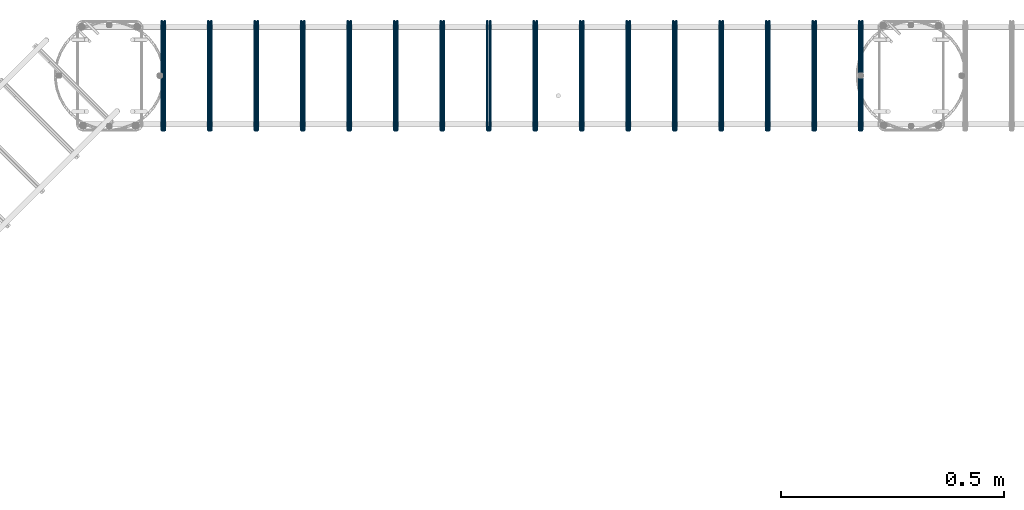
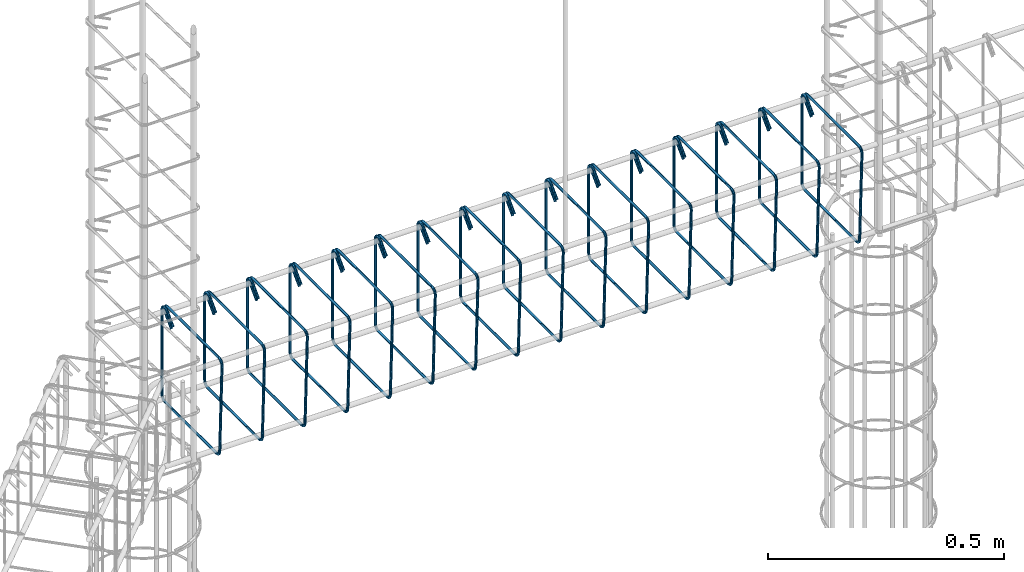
# One storey, part 5 of 14: 1 reinforcing bar.
"""IFC4 building model written with IfcOpenShell, lengths in centimetres."""

from ifc_helpers import new_model, entity, si_unit, converted_unit, derived_unit, direction, frame, origin, place, context, subcontext, project, spatial, type_object, element, save


model = new_model("IFC4")

# Units and contexts
model_context = context("Model", 3, precision=0.001, world=origin(), true_north=direction((6.123233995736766e-17, 1.0)))
body_context = subcontext(model_context, "Body", "Model", "MODEL_VIEW")
ifc_project = project(units=[si_unit("LENGTHUNIT", "METRE", prefix="CENTI"), si_unit("AREAUNIT", "SQUARE_METRE"), converted_unit("PLANEANGLEUNIT", "DEGREE", entity("IfcPlaneAngleMeasure", 0.017453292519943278), si_unit("PLANEANGLEUNIT", "RADIAN"), dimensions=[0, 0, 0, 0, 0, 0, 0]), si_unit("VOLUMEUNIT", "CUBIC_METRE"), derived_unit("THERMALTRANSMITTANCEUNIT", [(si_unit("MASSUNIT", "GRAM", prefix="KILO"), 1), (si_unit("THERMODYNAMICTEMPERATUREUNIT", "KELVIN"), -1), (si_unit("TIMEUNIT", "SECOND"), -3)])], contexts=[model_context])

# Site, building, storey
site_placement = place(None, origin())
site = spatial("IfcSite", under=ifc_project, at=site_placement, Name="Default", CompositionType="ELEMENT")
building_placement = place(site_placement, origin())
building = spatial("IfcBuilding", under=site, at=building_placement, Name="CONTENÇÃO DE ARQUIBANCADA - GINÁSIO PADRÃO", CompositionType="ELEMENT")
storey_placement = place(building_placement, frame((0.0, 0.0, -100.0)))
storey = spatial("IfcBuildingStorey", under=building, at=storey_placement, Name="Nível 3", CompositionType="ELEMENT", Elevation=-100.0)

# Reinforcing bar
reinforcing_bar_type = type_object("IfcReinforcingBarType", Name="Barra do vergalhão:6.3 CA-50", PredefinedType="NOTDEFINED")
reinforcing_bar_placement = place(storey_placement, origin())
element("IfcReinforcingBar", 1, at=reinforcing_bar_placement, inside=storey, type_object=reinforcing_bar_type, Name="Barra do vergalhão:6.3 CA-50 : Forma 22", ObjectType="Barra do vergalhão:6.3 CA-50", context=body_context, shape_type="AdvancedSweptSolid", body=[
    entity("IfcSweptDiskSolid", entity("IfcIndexedPolyCurve", entity("IfcCartesianPointList3D", [[182.7613157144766, 256.55825578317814, 94.26598964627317], [182.7613157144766, 259.10822068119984, 96.81595454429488], [182.7613157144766, 260.4813563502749, 97.08908821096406], [182.7613157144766, 261.2591752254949, 95.92499999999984], [182.7613157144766, 261.25917522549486, 74.07499999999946], [182.7613157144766, 260.8901297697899, 73.18404545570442], [182.7613157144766, 259.9991752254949, 72.81499999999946], [182.76131571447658, 238.1491752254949, 72.81499999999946], [182.77085289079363, 237.25822068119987, 73.18392220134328], [182.79387767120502, 236.88917522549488, 74.07457918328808], [183.35875375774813, 236.88917522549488, 95.92542081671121], [183.38177853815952, 237.25822068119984, 96.81607779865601], [183.39131571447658, 238.1491752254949, 97.18499999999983], [183.3913157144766, 259.99917522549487, 97.18499999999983], [183.3913157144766, 261.1632634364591, 96.40718112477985], [183.3913157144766, 260.89012976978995, 95.03404545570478], [183.3913157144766, 258.34016487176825, 92.48408055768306]]), [entity("IfcLineIndex", [1, 2]), entity("IfcArcIndex", [2, 3, 4]), entity("IfcLineIndex", [4, 5]), entity("IfcArcIndex", [5, 6, 7]), entity("IfcLineIndex", [7, 8]), entity("IfcArcIndex", [8, 9, 10]), entity("IfcLineIndex", [10, 11]), entity("IfcArcIndex", [11, 12, 13]), entity("IfcLineIndex", [13, 14]), entity("IfcArcIndex", [14, 15, 16]), entity("IfcLineIndex", [16, 17])], False), 0.31499999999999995, None, 0.0, 546.0000000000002),
    entity("IfcSweptDiskSolid", entity("IfcIndexedPolyCurve", entity("IfcCartesianPointList3D", [[172.32552515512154, 256.55825578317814, 94.26598964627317], [172.32552515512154, 259.10822068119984, 96.81595454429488], [172.32552515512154, 260.4813563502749, 97.08908821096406], [172.32552515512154, 261.2591752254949, 95.92499999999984], [172.32552515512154, 261.25917522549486, 74.07499999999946], [172.32552515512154, 260.8901297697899, 73.18404545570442], [172.32552515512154, 259.9991752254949, 72.81499999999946], [172.32552515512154, 238.14917522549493, 72.81499999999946], [172.33506233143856, 237.2582206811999, 73.18392220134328], [172.35808711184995, 236.8891752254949, 74.07457918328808], [172.9229631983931, 236.8891752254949, 95.92542081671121], [172.94598797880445, 237.25822068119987, 96.81607779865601], [172.9555251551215, 238.14917522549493, 97.18499999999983], [172.95552515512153, 259.99917522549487, 97.18499999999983], [172.95552515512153, 261.1632634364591, 96.40718112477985], [172.95552515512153, 260.89012976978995, 95.03404545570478], [172.95552515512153, 258.34016487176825, 92.48408055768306]]), [entity("IfcLineIndex", [1, 2]), entity("IfcArcIndex", [2, 3, 4]), entity("IfcLineIndex", [4, 5]), entity("IfcArcIndex", [5, 6, 7]), entity("IfcLineIndex", [7, 8]), entity("IfcArcIndex", [8, 9, 10]), entity("IfcLineIndex", [10, 11]), entity("IfcArcIndex", [11, 12, 13]), entity("IfcLineIndex", [13, 14]), entity("IfcArcIndex", [14, 15, 16]), entity("IfcLineIndex", [16, 17])], False), 0.31499999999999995, None, 0.0, 546.0000000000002),
    entity("IfcSweptDiskSolid", entity("IfcIndexedPolyCurve", entity("IfcCartesianPointList3D", [[161.8897345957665, 256.5582557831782, 94.26598964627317], [161.8897345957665, 259.1082206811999, 96.81595454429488], [161.8897345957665, 260.48135635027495, 97.08908821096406], [161.8897345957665, 261.25917522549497, 95.92499999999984], [161.8897345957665, 261.2591752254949, 74.07499999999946], [161.8897345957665, 260.89012976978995, 73.18404545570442], [161.8897345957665, 259.999175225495, 72.81499999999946], [161.88973459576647, 238.14917522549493, 72.81499999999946], [161.89927177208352, 237.2582206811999, 73.18392220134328], [161.9222965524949, 236.8891752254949, 74.07457918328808], [162.48717263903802, 236.8891752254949, 95.92542081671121], [162.5101974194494, 237.25822068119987, 96.81607779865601], [162.51973459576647, 238.14917522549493, 97.18499999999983], [162.5197345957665, 259.9991752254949, 97.18499999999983], [162.5197345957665, 261.16326343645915, 96.40718112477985], [162.5197345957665, 260.89012976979, 95.03404545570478], [162.5197345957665, 258.3401648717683, 92.48408055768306]]), [entity("IfcLineIndex", [1, 2]), entity("IfcArcIndex", [2, 3, 4]), entity("IfcLineIndex", [4, 5]), entity("IfcArcIndex", [5, 6, 7]), entity("IfcLineIndex", [7, 8]), entity("IfcArcIndex", [8, 9, 10]), entity("IfcLineIndex", [10, 11]), entity("IfcArcIndex", [11, 12, 13]), entity("IfcLineIndex", [13, 14]), entity("IfcArcIndex", [14, 15, 16]), entity("IfcLineIndex", [16, 17])], False), 0.31499999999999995, None, 0.0, 546.0000000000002),
    entity("IfcSweptDiskSolid", entity("IfcIndexedPolyCurve", entity("IfcCartesianPointList3D", [[151.45394403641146, 256.5582557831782, 94.26598964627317], [151.45394403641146, 259.1082206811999, 96.81595454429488], [151.45394403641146, 260.48135635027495, 97.08908821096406], [151.45394403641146, 261.25917522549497, 95.92499999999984], [151.45394403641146, 261.2591752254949, 74.07499999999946], [151.45394403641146, 260.89012976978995, 73.18404545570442], [151.45394403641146, 259.999175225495, 72.81499999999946], [151.45394403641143, 238.14917522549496, 72.81499999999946], [151.46348121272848, 237.25822068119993, 73.18392220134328], [151.48650599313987, 236.88917522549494, 74.07457918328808], [152.05138207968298, 236.88917522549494, 95.92542081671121], [152.07440686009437, 237.2582206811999, 96.81607779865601], [152.08394403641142, 238.14917522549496, 97.18499999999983], [152.08394403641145, 259.9991752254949, 97.18499999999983], [152.08394403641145, 261.16326343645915, 96.40718112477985], [152.08394403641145, 260.89012976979, 95.03404545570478], [152.08394403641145, 258.3401648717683, 92.48408055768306]]), [entity("IfcLineIndex", [1, 2]), entity("IfcArcIndex", [2, 3, 4]), entity("IfcLineIndex", [4, 5]), entity("IfcArcIndex", [5, 6, 7]), entity("IfcLineIndex", [7, 8]), entity("IfcArcIndex", [8, 9, 10]), entity("IfcLineIndex", [10, 11]), entity("IfcArcIndex", [11, 12, 13]), entity("IfcLineIndex", [13, 14]), entity("IfcArcIndex", [14, 15, 16]), entity("IfcLineIndex", [16, 17])], False), 0.31499999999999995, None, 0.0, 546.0000000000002),
    entity("IfcSweptDiskSolid", entity("IfcIndexedPolyCurve", entity("IfcCartesianPointList3D", [[141.0181534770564, 256.5582557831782, 94.26598964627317], [141.0181534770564, 259.1082206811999, 96.81595454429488], [141.0181534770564, 260.48135635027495, 97.08908821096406], [141.0181534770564, 261.25917522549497, 95.92499999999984], [141.0181534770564, 261.2591752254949, 74.07499999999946], [141.0181534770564, 260.89012976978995, 73.18404545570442], [141.0181534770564, 259.999175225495, 72.81499999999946], [141.0181534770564, 238.149175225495, 72.81499999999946], [141.0276906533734, 237.25822068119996, 73.18392220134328], [141.0507154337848, 236.88917522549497, 74.07457918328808], [141.61559152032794, 236.88917522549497, 95.92542081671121], [141.63861630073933, 237.25822068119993, 96.81607779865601], [141.64815347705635, 238.149175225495, 97.18499999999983], [141.64815347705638, 259.9991752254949, 97.18499999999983], [141.64815347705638, 261.16326343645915, 96.40718112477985], [141.64815347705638, 260.89012976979, 95.03404545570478], [141.64815347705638, 258.3401648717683, 92.48408055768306]]), [entity("IfcLineIndex", [1, 2]), entity("IfcArcIndex", [2, 3, 4]), entity("IfcLineIndex", [4, 5]), entity("IfcArcIndex", [5, 6, 7]), entity("IfcLineIndex", [7, 8]), entity("IfcArcIndex", [8, 9, 10]), entity("IfcLineIndex", [10, 11]), entity("IfcArcIndex", [11, 12, 13]), entity("IfcLineIndex", [13, 14]), entity("IfcArcIndex", [14, 15, 16]), entity("IfcLineIndex", [16, 17])], False), 0.31499999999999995, None, 0.0, 546.0000000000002),
    entity("IfcSweptDiskSolid", entity("IfcIndexedPolyCurve", entity("IfcCartesianPointList3D", [[130.58236291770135, 256.5582557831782, 94.26598964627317], [130.58236291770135, 259.10822068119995, 96.81595454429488], [130.58236291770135, 260.481356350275, 97.08908821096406], [130.58236291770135, 261.259175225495, 95.92499999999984], [130.58236291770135, 261.25917522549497, 74.07499999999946], [130.58236291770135, 260.89012976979, 73.18404545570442], [130.58236291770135, 259.99917522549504, 72.81499999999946], [130.58236291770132, 238.149175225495, 72.81499999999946], [130.59190009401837, 237.25822068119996, 73.18392220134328], [130.6149248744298, 236.88917522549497, 74.07457918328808], [131.1798009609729, 236.88917522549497, 95.92542081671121], [131.2028257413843, 237.25822068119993, 96.81607779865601], [131.2123629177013, 238.149175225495, 97.18499999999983], [131.21236291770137, 259.999175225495, 97.18499999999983], [131.21236291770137, 261.1632634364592, 96.40718112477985], [131.21236291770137, 260.89012976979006, 95.03404545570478], [131.21236291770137, 258.34016487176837, 92.48408055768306]]), [entity("IfcLineIndex", [1, 2]), entity("IfcArcIndex", [2, 3, 4]), entity("IfcLineIndex", [4, 5]), entity("IfcArcIndex", [5, 6, 7]), entity("IfcLineIndex", [7, 8]), entity("IfcArcIndex", [8, 9, 10]), entity("IfcLineIndex", [10, 11]), entity("IfcArcIndex", [11, 12, 13]), entity("IfcLineIndex", [13, 14]), entity("IfcArcIndex", [14, 15, 16]), entity("IfcLineIndex", [16, 17])], False), 0.31499999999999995, None, 0.0, 546.0000000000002),
    entity("IfcSweptDiskSolid", entity("IfcIndexedPolyCurve", entity("IfcCartesianPointList3D", [[120.14657235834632, 256.5582557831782, 94.26598964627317], [120.14657235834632, 259.10822068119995, 96.81595454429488], [120.14657235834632, 260.481356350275, 97.08908821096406], [120.14657235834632, 261.259175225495, 95.92499999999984], [120.14657235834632, 261.25917522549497, 74.07499999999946], [120.14657235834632, 260.89012976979, 73.18404545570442], [120.14657235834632, 259.99917522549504, 72.81499999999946], [120.14657235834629, 238.14917522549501, 72.81499999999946], [120.15610953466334, 237.2582206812, 73.18392220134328], [120.17913431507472, 236.889175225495, 74.07457918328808], [120.74401040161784, 236.889175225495, 95.92542081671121], [120.76703518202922, 237.25822068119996, 96.81607779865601], [120.77657235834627, 238.14917522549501, 97.18499999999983], [120.7765723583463, 259.999175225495, 97.18499999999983], [120.7765723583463, 261.1632634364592, 96.40718112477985], [120.7765723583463, 260.89012976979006, 95.03404545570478], [120.7765723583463, 258.34016487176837, 92.48408055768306]]), [entity("IfcLineIndex", [1, 2]), entity("IfcArcIndex", [2, 3, 4]), entity("IfcLineIndex", [4, 5]), entity("IfcArcIndex", [5, 6, 7]), entity("IfcLineIndex", [7, 8]), entity("IfcArcIndex", [8, 9, 10]), entity("IfcLineIndex", [10, 11]), entity("IfcArcIndex", [11, 12, 13]), entity("IfcLineIndex", [13, 14]), entity("IfcArcIndex", [14, 15, 16]), entity("IfcLineIndex", [16, 17])], False), 0.31499999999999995, None, 0.0, 546.0000000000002),
    entity("IfcSweptDiskSolid", entity("IfcIndexedPolyCurve", entity("IfcCartesianPointList3D", [[109.71078179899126, 256.5582557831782, 94.26598964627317], [109.71078179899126, 259.10822068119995, 96.81595454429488], [109.71078179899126, 260.481356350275, 97.08908821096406], [109.71078179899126, 261.259175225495, 95.92499999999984], [109.71078179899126, 261.25917522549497, 74.07499999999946], [109.71078179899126, 260.89012976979, 73.18404545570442], [109.71078179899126, 259.99917522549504, 72.81499999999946], [109.71078179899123, 238.14917522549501, 72.81499999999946], [109.7203189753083, 237.2582206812, 73.18392220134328], [109.74334375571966, 236.889175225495, 74.07457918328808], [110.30821984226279, 236.889175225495, 95.92542081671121], [110.33124462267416, 237.25822068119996, 96.81607779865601], [110.34078179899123, 238.14917522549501, 97.18499999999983], [110.34078179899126, 259.999175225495, 97.18499999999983], [110.34078179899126, 261.1632634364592, 96.40718112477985], [110.34078179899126, 260.89012976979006, 95.03404545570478], [110.34078179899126, 258.34016487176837, 92.48408055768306]]), [entity("IfcLineIndex", [1, 2]), entity("IfcArcIndex", [2, 3, 4]), entity("IfcLineIndex", [4, 5]), entity("IfcArcIndex", [5, 6, 7]), entity("IfcLineIndex", [7, 8]), entity("IfcArcIndex", [8, 9, 10]), entity("IfcLineIndex", [10, 11]), entity("IfcArcIndex", [11, 12, 13]), entity("IfcLineIndex", [13, 14]), entity("IfcArcIndex", [14, 15, 16]), entity("IfcLineIndex", [16, 17])], False), 0.31499999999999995, None, 0.0, 546.0000000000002),
    entity("IfcSweptDiskSolid", entity("IfcIndexedPolyCurve", entity("IfcCartesianPointList3D", [[99.27499123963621, 256.55825578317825, 94.26598964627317], [99.27499123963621, 259.1082206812, 96.81595454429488], [99.27499123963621, 260.48135635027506, 97.08908821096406], [99.27499123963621, 261.2591752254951, 95.92499999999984], [99.27499123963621, 261.259175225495, 74.07499999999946], [99.27499123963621, 260.89012976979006, 73.18404545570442], [99.27499123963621, 259.9991752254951, 72.81499999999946], [99.27499123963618, 238.14917522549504, 72.81499999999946], [99.28452841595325, 237.25822068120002, 73.18392220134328], [99.30755319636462, 236.88917522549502, 74.07457918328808], [99.87242928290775, 236.88917522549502, 95.92542081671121], [99.89545406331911, 237.2582206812, 96.81607779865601], [99.90499123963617, 238.14917522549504, 97.18499999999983], [99.9049912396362, 259.99917522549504, 97.18499999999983], [99.9049912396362, 261.16326343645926, 96.40718112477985], [99.9049912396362, 260.8901297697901, 95.03404545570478], [99.9049912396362, 258.3401648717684, 92.48408055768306]]), [entity("IfcLineIndex", [1, 2]), entity("IfcArcIndex", [2, 3, 4]), entity("IfcLineIndex", [4, 5]), entity("IfcArcIndex", [5, 6, 7]), entity("IfcLineIndex", [7, 8]), entity("IfcArcIndex", [8, 9, 10]), entity("IfcLineIndex", [10, 11]), entity("IfcArcIndex", [11, 12, 13]), entity("IfcLineIndex", [13, 14]), entity("IfcArcIndex", [14, 15, 16]), entity("IfcLineIndex", [16, 17])], False), 0.31499999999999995, None, 0.0, 546.0000000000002),
    entity("IfcSweptDiskSolid", entity("IfcIndexedPolyCurve", entity("IfcCartesianPointList3D", [[88.83920068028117, 256.55825578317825, 94.26598964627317], [88.83920068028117, 259.1082206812, 96.81595454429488], [88.83920068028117, 260.48135635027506, 97.08908821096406], [88.83920068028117, 261.2591752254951, 95.92499999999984], [88.83920068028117, 261.259175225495, 74.07499999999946], [88.83920068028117, 260.89012976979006, 73.18404545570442], [88.83920068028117, 259.9991752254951, 72.81499999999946], [88.83920068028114, 238.14917522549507, 72.81499999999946], [88.84873785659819, 237.25822068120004, 73.18392220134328], [88.87176263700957, 236.88917522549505, 74.07457918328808], [89.43663872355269, 236.88917522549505, 95.92542081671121], [89.45966350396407, 237.25822068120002, 96.81607779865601], [89.46920068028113, 238.14917522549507, 97.18499999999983], [89.46920068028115, 259.99917522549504, 97.18499999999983], [89.46920068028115, 261.16326343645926, 96.40718112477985], [89.46920068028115, 260.8901297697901, 95.03404545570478], [89.46920068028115, 258.3401648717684, 92.48408055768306]]), [entity("IfcLineIndex", [1, 2]), entity("IfcArcIndex", [2, 3, 4]), entity("IfcLineIndex", [4, 5]), entity("IfcArcIndex", [5, 6, 7]), entity("IfcLineIndex", [7, 8]), entity("IfcArcIndex", [8, 9, 10]), entity("IfcLineIndex", [10, 11]), entity("IfcArcIndex", [11, 12, 13]), entity("IfcLineIndex", [13, 14]), entity("IfcArcIndex", [14, 15, 16]), entity("IfcLineIndex", [16, 17])], False), 0.31499999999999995, None, 0.0, 546.0000000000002),
    entity("IfcSweptDiskSolid", entity("IfcIndexedPolyCurve", entity("IfcCartesianPointList3D", [[78.40341012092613, 256.55825578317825, 94.26598964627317], [78.40341012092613, 259.1082206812, 96.81595454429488], [78.40341012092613, 260.48135635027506, 97.08908821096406], [78.40341012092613, 261.2591752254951, 95.92499999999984], [78.40341012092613, 261.259175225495, 74.07499999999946], [78.40341012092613, 260.89012976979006, 73.18404545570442], [78.40341012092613, 259.9991752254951, 72.81499999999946], [78.4034101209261, 238.14917522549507, 72.81499999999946], [78.41294729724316, 237.25822068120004, 73.18392220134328], [78.43597207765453, 236.88917522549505, 74.07457918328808], [79.00084816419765, 236.88917522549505, 95.92542081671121], [79.02387294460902, 237.25822068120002, 96.81607779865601], [79.03341012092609, 238.14917522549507, 97.18499999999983], [79.03341012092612, 259.99917522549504, 97.18499999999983], [79.03341012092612, 261.16326343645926, 96.40718112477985], [79.03341012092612, 260.8901297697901, 95.03404545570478], [79.03341012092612, 258.3401648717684, 92.48408055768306]]), [entity("IfcLineIndex", [1, 2]), entity("IfcArcIndex", [2, 3, 4]), entity("IfcLineIndex", [4, 5]), entity("IfcArcIndex", [5, 6, 7]), entity("IfcLineIndex", [7, 8]), entity("IfcArcIndex", [8, 9, 10]), entity("IfcLineIndex", [10, 11]), entity("IfcArcIndex", [11, 12, 13]), entity("IfcLineIndex", [13, 14]), entity("IfcArcIndex", [14, 15, 16]), entity("IfcLineIndex", [16, 17])], False), 0.31499999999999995, None, 0.0, 546.0000000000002),
    entity("IfcSweptDiskSolid", entity("IfcIndexedPolyCurve", entity("IfcCartesianPointList3D", [[67.96761956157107, 256.55825578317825, 94.26598964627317], [67.96761956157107, 259.1082206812, 96.81595454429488], [67.96761956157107, 260.48135635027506, 97.08908821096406], [67.96761956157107, 261.2591752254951, 95.92499999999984], [67.96761956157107, 261.259175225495, 74.07499999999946], [67.96761956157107, 260.89012976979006, 73.18404545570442], [67.96761956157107, 259.9991752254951, 72.81499999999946], [67.96761956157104, 238.1491752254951, 72.81499999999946], [67.97715673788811, 237.25822068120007, 73.18392220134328], [68.00018151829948, 236.88917522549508, 74.07457918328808], [68.56505760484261, 236.88917522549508, 95.92542081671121], [68.58808238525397, 237.25822068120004, 96.81607779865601], [68.59761956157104, 238.1491752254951, 97.18499999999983], [68.59761956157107, 259.99917522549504, 97.18499999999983], [68.59761956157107, 261.16326343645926, 96.40718112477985], [68.59761956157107, 260.8901297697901, 95.03404545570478], [68.59761956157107, 258.3401648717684, 92.48408055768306]]), [entity("IfcLineIndex", [1, 2]), entity("IfcArcIndex", [2, 3, 4]), entity("IfcLineIndex", [4, 5]), entity("IfcArcIndex", [5, 6, 7]), entity("IfcLineIndex", [7, 8]), entity("IfcArcIndex", [8, 9, 10]), entity("IfcLineIndex", [10, 11]), entity("IfcArcIndex", [11, 12, 13]), entity("IfcLineIndex", [13, 14]), entity("IfcArcIndex", [14, 15, 16]), entity("IfcLineIndex", [16, 17])], False), 0.31499999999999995, None, 0.0, 546.0000000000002),
    entity("IfcSweptDiskSolid", entity("IfcIndexedPolyCurve", entity("IfcCartesianPointList3D", [[57.531829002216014, 256.5582557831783, 94.26598964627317], [57.53182900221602, 259.10822068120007, 96.81595454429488], [57.53182900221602, 260.48135635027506, 97.08908821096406], [57.53182900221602, 261.25917522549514, 95.92499999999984], [57.53182900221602, 261.2591752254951, 74.07499999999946], [57.53182900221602, 260.8901297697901, 73.18404545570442], [57.53182900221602, 259.99917522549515, 72.81499999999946], [57.531829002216, 238.14917522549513, 72.81499999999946], [57.54136617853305, 237.2582206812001, 73.18392220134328], [57.56439095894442, 236.8891752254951, 74.07457918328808], [58.12926704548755, 236.8891752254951, 95.92542081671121], [58.15229182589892, 237.25822068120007, 96.81607779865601], [58.16182900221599, 238.14917522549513, 97.18499999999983], [58.16182900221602, 259.9991752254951, 97.18499999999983], [58.16182900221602, 261.1632634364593, 96.40718112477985], [58.16182900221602, 260.8901297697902, 95.03404545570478], [58.16182900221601, 258.3401648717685, 92.48408055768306]]), [entity("IfcLineIndex", [1, 2]), entity("IfcArcIndex", [2, 3, 4]), entity("IfcLineIndex", [4, 5]), entity("IfcArcIndex", [5, 6, 7]), entity("IfcLineIndex", [7, 8]), entity("IfcArcIndex", [8, 9, 10]), entity("IfcLineIndex", [10, 11]), entity("IfcArcIndex", [11, 12, 13]), entity("IfcLineIndex", [13, 14]), entity("IfcArcIndex", [14, 15, 16]), entity("IfcLineIndex", [16, 17])], False), 0.31499999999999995, None, 0.0, 546.0000000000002),
    entity("IfcSweptDiskSolid", entity("IfcIndexedPolyCurve", entity("IfcCartesianPointList3D", [[47.096038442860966, 256.5582557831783, 94.26598964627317], [47.09603844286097, 259.10822068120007, 96.81595454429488], [47.09603844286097, 260.48135635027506, 97.08908821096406], [47.09603844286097, 261.25917522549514, 95.92499999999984], [47.09603844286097, 261.2591752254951, 74.07499999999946], [47.09603844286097, 260.8901297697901, 73.18404545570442], [47.09603844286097, 259.99917522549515, 72.81499999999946], [47.09603844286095, 238.14917522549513, 72.81499999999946], [47.105575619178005, 237.2582206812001, 73.18392220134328], [47.128600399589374, 236.8891752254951, 74.07457918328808], [47.693476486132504, 236.8891752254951, 95.92542081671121], [47.71650126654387, 237.25822068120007, 96.81607779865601], [47.72603844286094, 238.14917522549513, 97.18499999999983], [47.72603844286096, 259.9991752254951, 97.18499999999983], [47.72603844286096, 261.1632634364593, 96.40718112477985], [47.72603844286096, 260.8901297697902, 95.03404545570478], [47.72603844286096, 258.3401648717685, 92.48408055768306]]), [entity("IfcLineIndex", [1, 2]), entity("IfcArcIndex", [2, 3, 4]), entity("IfcLineIndex", [4, 5]), entity("IfcArcIndex", [5, 6, 7]), entity("IfcLineIndex", [7, 8]), entity("IfcArcIndex", [8, 9, 10]), entity("IfcLineIndex", [10, 11]), entity("IfcArcIndex", [11, 12, 13]), entity("IfcLineIndex", [13, 14]), entity("IfcArcIndex", [14, 15, 16]), entity("IfcLineIndex", [16, 17])], False), 0.31499999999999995, None, 0.0, 546.0000000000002),
    entity("IfcSweptDiskSolid", entity("IfcIndexedPolyCurve", entity("IfcCartesianPointList3D", [[36.66024788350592, 256.5582557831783, 94.26598964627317], [36.660247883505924, 259.10822068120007, 96.81595454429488], [36.660247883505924, 260.48135635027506, 97.08908821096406], [36.660247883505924, 261.25917522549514, 95.92499999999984], [36.660247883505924, 261.2591752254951, 74.07499999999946], [36.660247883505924, 260.8901297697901, 73.18404545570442], [36.660247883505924, 259.99917522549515, 72.81499999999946], [36.6602478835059, 238.14917522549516, 72.81499999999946], [36.66978505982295, 237.2582206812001, 73.18392220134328], [36.692809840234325, 236.88917522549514, 74.07457918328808], [37.257685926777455, 236.88917522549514, 95.92542081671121], [37.280710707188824, 237.2582206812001, 96.81607779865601], [37.290247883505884, 238.14917522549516, 97.18499999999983], [37.29024788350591, 259.9991752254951, 97.18499999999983], [37.29024788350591, 261.1632634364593, 96.40718112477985], [37.29024788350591, 260.8901297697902, 95.03404545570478], [37.290247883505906, 258.3401648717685, 92.48408055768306]]), [entity("IfcLineIndex", [1, 2]), entity("IfcArcIndex", [2, 3, 4]), entity("IfcLineIndex", [4, 5]), entity("IfcArcIndex", [5, 6, 7]), entity("IfcLineIndex", [7, 8]), entity("IfcArcIndex", [8, 9, 10]), entity("IfcLineIndex", [10, 11]), entity("IfcArcIndex", [11, 12, 13]), entity("IfcLineIndex", [13, 14]), entity("IfcArcIndex", [14, 15, 16]), entity("IfcLineIndex", [16, 17])], False), 0.31499999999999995, None, 0.0, 546.0000000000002),
    entity("IfcSweptDiskSolid", entity("IfcIndexedPolyCurve", entity("IfcCartesianPointList3D", [[26.22445732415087, 256.55825578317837, 94.26598964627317], [26.224457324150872, 259.1082206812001, 96.81595454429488], [26.224457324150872, 260.4813563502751, 97.08908821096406], [26.224457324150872, 261.2591752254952, 95.92499999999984], [26.224457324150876, 261.25917522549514, 74.07499999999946], [26.224457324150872, 260.8901297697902, 73.18404545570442], [26.22445732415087, 259.9991752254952, 72.81499999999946], [26.22445732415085, 238.14917522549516, 72.81499999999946], [26.2339945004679, 237.2582206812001, 73.18392220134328], [26.257019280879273, 236.88917522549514, 74.07457918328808], [26.8218953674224, 236.88917522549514, 95.92542081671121], [26.844920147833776, 237.2582206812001, 96.81607779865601], [26.85445732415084, 238.14917522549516, 97.18499999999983], [26.854457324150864, 259.99917522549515, 97.18499999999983], [26.854457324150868, 261.1632634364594, 96.40718112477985], [26.854457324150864, 260.89012976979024, 95.03404545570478], [26.85445732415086, 258.3401648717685, 92.48408055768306]]), [entity("IfcLineIndex", [1, 2]), entity("IfcArcIndex", [2, 3, 4]), entity("IfcLineIndex", [4, 5]), entity("IfcArcIndex", [5, 6, 7]), entity("IfcLineIndex", [7, 8]), entity("IfcArcIndex", [8, 9, 10]), entity("IfcLineIndex", [10, 11]), entity("IfcArcIndex", [11, 12, 13]), entity("IfcLineIndex", [13, 14]), entity("IfcArcIndex", [14, 15, 16]), entity("IfcLineIndex", [16, 17])], False), 0.31499999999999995, None, 0.0, 546.0000000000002),
])

save(model, "model.ifc")
